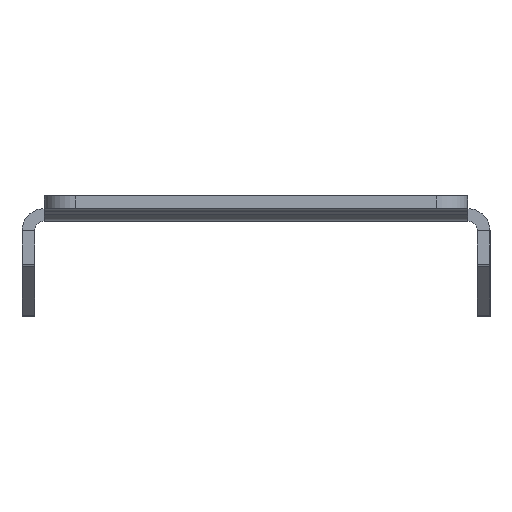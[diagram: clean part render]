
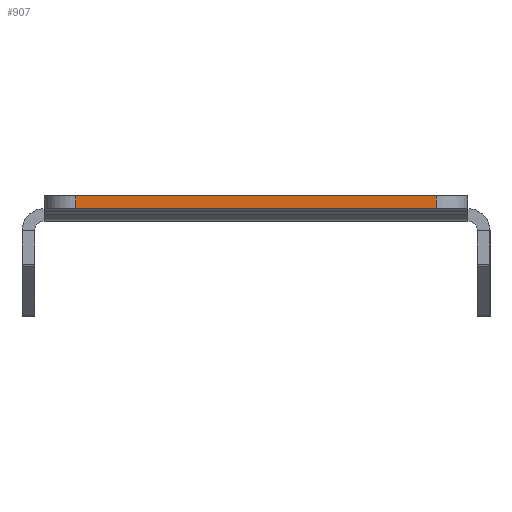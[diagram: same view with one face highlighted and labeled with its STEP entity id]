
A CAD part, left-side view. The second image highlights one B-rep face of the part: STEP entity #907.
In plain terms, the highlighted planar face has unit normal (-1, 0, 0).
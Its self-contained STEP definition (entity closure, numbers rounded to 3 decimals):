
#662 = EDGE_LOOP ( 'NONE', ( #11770, #11383, #5455, #20582 ) ) ;
#843 = CARTESIAN_POINT ( 'NONE',  ( -226.002, 33.5, 9.531 ) ) ;
#907 = ADVANCED_FACE ( 'NONE', ( #7812 ), #24854, .T. ) ;
#910 = LINE ( 'NONE', #20597, #3493 ) ;
#1652 = CARTESIAN_POINT ( 'NONE',  ( -226.002, 28.5, 9.531 ) ) ;
#1931 = LINE ( 'NONE', #16705, #18362 ) ;
#3493 = VECTOR ( 'NONE', #16094, 1000. ) ;
#3662 = VERTEX_POINT ( 'NONE', #1652 ) ;
#5455 = ORIENTED_EDGE ( 'NONE', *, *, #25601, .T. ) ;
#7812 = FACE_OUTER_BOUND ( 'NONE', #662, .T. ) ;
#8254 = EDGE_CURVE ( 'NONE', #3662, #9923, #910, .T. ) ;
#9059 = CARTESIAN_POINT ( 'NONE',  ( -226.002, 28.5, 7.531 ) ) ;
#9328 = EDGE_CURVE ( 'NONE', #10236, #18110, #1931, .T. ) ;
#9923 = VERTEX_POINT ( 'NONE', #9059 ) ;
#10236 = VERTEX_POINT ( 'NONE', #26886 ) ;
#11383 = ORIENTED_EDGE ( 'NONE', *, *, #9328, .T. ) ;
#11770 = ORIENTED_EDGE ( 'NONE', *, *, #25062, .F. ) ;
#12290 = VECTOR ( 'NONE', #22134, 1000. ) ;
#12321 = DIRECTION ( 'NONE',  ( -1., 0., 0. ) ) ;
#16094 = DIRECTION ( 'NONE',  ( 0., 0., -1. ) ) ;
#16168 = AXIS2_PLACEMENT_3D ( 'NONE', #22609, #12321, #20899 ) ;
#16705 = CARTESIAN_POINT ( 'NONE',  ( -226.002, -28.5, 9.531 ) ) ;
#16843 = DIRECTION ( 'NONE',  ( 0., 0., 1. ) ) ;
#18110 = VERTEX_POINT ( 'NONE', #25984 ) ;
#18362 = VECTOR ( 'NONE', #16843, 1000. ) ;
#19873 = LINE ( 'NONE', #24382, #12290 ) ;
#19977 = DIRECTION ( 'NONE',  ( 0., 1., 0. ) ) ;
#20582 = ORIENTED_EDGE ( 'NONE', *, *, #8254, .T. ) ;
#20597 = CARTESIAN_POINT ( 'NONE',  ( -226.002, 28.5, 9.531 ) ) ;
#20899 = DIRECTION ( 'NONE',  ( 0., 0., 1. ) ) ;
#22134 = DIRECTION ( 'NONE',  ( 0., 1., 0. ) ) ;
#22369 = LINE ( 'NONE', #843, #26720 ) ;
#22609 = CARTESIAN_POINT ( 'NONE',  ( -226.002, 33.5, 9.531 ) ) ;
#24382 = CARTESIAN_POINT ( 'NONE',  ( -226.002, 0., 7.531 ) ) ;
#24854 = PLANE ( 'NONE',  #16168 ) ;
#25062 = EDGE_CURVE ( 'NONE', #10236, #9923, #19873, .T. ) ;
#25601 = EDGE_CURVE ( 'NONE', #18110, #3662, #22369, .T. ) ;
#25984 = CARTESIAN_POINT ( 'NONE',  ( -226.002, -28.5, 9.531 ) ) ;
#26720 = VECTOR ( 'NONE', #19977, 1000. ) ;
#26886 = CARTESIAN_POINT ( 'NONE',  ( -226.002, -28.5, 7.531 ) ) ;
